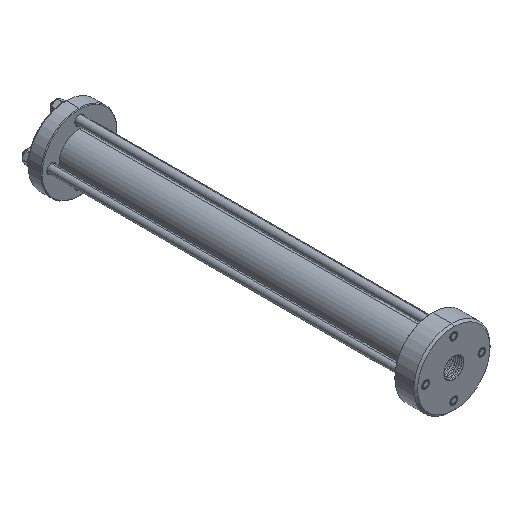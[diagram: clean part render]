
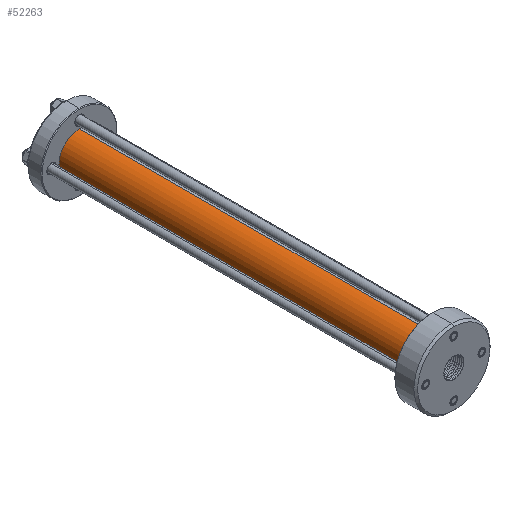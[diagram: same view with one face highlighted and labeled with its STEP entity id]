
A CAD part, isometric view. The second image highlights one B-rep face of the part: STEP entity #52263.
In plain terms, the highlighted cylindrical face has radius 16 mm (diameter 32 mm), a partial arc.
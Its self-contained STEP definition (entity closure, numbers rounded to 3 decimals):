
#993 = CARTESIAN_POINT ( 'NONE',  ( 40.045, 23.458, 85.617 ) ) ;
#2255 = DIRECTION ( 'NONE',  ( 0., 0., 1. ) ) ;
#11629 = CIRCLE ( 'NONE', #18796, 16. ) ;
#13107 = EDGE_CURVE ( 'NONE', #27398, #23184, #23288, .T. ) ;
#13635 = VECTOR ( 'NONE', #41701, 1000. ) ;
#15357 = AXIS2_PLACEMENT_3D ( 'NONE', #37706, #20080, #32057 ) ;
#17049 = CARTESIAN_POINT ( 'NONE',  ( 40.045, 309.458, 85.617 ) ) ;
#17936 = EDGE_CURVE ( 'NONE', #62517, #27398, #11629, .T. ) ;
#18796 = AXIS2_PLACEMENT_3D ( 'NONE', #58638, #63470, #2255 ) ;
#20080 = DIRECTION ( 'NONE',  ( 0., 1., 0. ) ) ;
#21156 = DIRECTION ( 'NONE',  ( 0., -1., 0. ) ) ;
#22978 = ORIENTED_EDGE ( 'NONE', *, *, #13107, .F. ) ;
#23184 = VERTEX_POINT ( 'NONE', #58670 ) ;
#23288 = LINE ( 'NONE', #40605, #13635 ) ;
#24306 = ORIENTED_EDGE ( 'NONE', *, *, #17936, .F. ) ;
#27398 = VERTEX_POINT ( 'NONE', #60431 ) ;
#30922 = FACE_OUTER_BOUND ( 'NONE', #36709, .T. ) ;
#32057 = DIRECTION ( 'NONE',  ( 0., 0., 1. ) ) ;
#32299 = AXIS2_PLACEMENT_3D ( 'NONE', #72505, #21156, #38425 ) ;
#35294 = VERTEX_POINT ( 'NONE', #993 ) ;
#36709 = EDGE_LOOP ( 'NONE', ( #22978, #24306, #70915, #65384 ) ) ;
#37706 = CARTESIAN_POINT ( 'NONE',  ( 40.045, 23.458, 101.617 ) ) ;
#38425 = DIRECTION ( 'NONE',  ( 0., 0., -1. ) ) ;
#40605 = CARTESIAN_POINT ( 'NONE',  ( 40.045, 309.458, 117.617 ) ) ;
#41701 = DIRECTION ( 'NONE',  ( 0., -1., 0. ) ) ;
#47709 = EDGE_CURVE ( 'NONE', #35294, #23184, #57333, .T. ) ;
#52263 = ADVANCED_FACE ( 'NONE', ( #30922 ), #53860, .T. ) ;
#52293 = DIRECTION ( 'NONE',  ( 0., -1., 0. ) ) ;
#53860 = CYLINDRICAL_SURFACE ( 'NONE', #32299, 16. ) ;
#57333 = CIRCLE ( 'NONE', #15357, 16. ) ;
#57941 = CARTESIAN_POINT ( 'NONE',  ( 40.045, 309.458, 85.617 ) ) ;
#58638 = CARTESIAN_POINT ( 'NONE',  ( 40.045, 309.458, 101.617 ) ) ;
#58670 = CARTESIAN_POINT ( 'NONE',  ( 40.045, 23.458, 117.617 ) ) ;
#58683 = LINE ( 'NONE', #57941, #64332 ) ;
#60431 = CARTESIAN_POINT ( 'NONE',  ( 40.045, 309.458, 117.617 ) ) ;
#62517 = VERTEX_POINT ( 'NONE', #17049 ) ;
#63470 = DIRECTION ( 'NONE',  ( 0., 1., 0. ) ) ;
#64332 = VECTOR ( 'NONE', #52293, 1000. ) ;
#65384 = ORIENTED_EDGE ( 'NONE', *, *, #47709, .T. ) ;
#70915 = ORIENTED_EDGE ( 'NONE', *, *, #71589, .T. ) ;
#71589 = EDGE_CURVE ( 'NONE', #62517, #35294, #58683, .T. ) ;
#72505 = CARTESIAN_POINT ( 'NONE',  ( 40.045, 309.458, 101.617 ) ) ;
